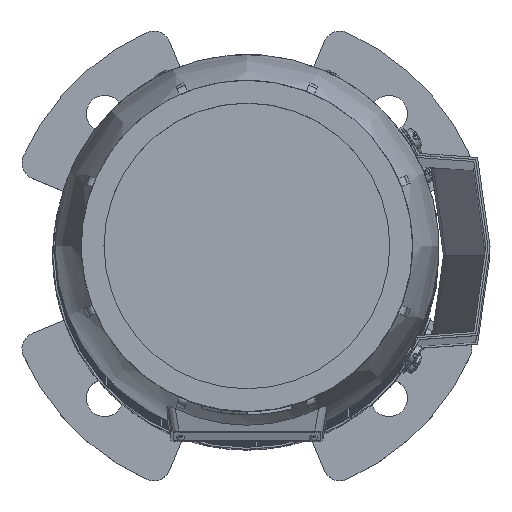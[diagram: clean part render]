
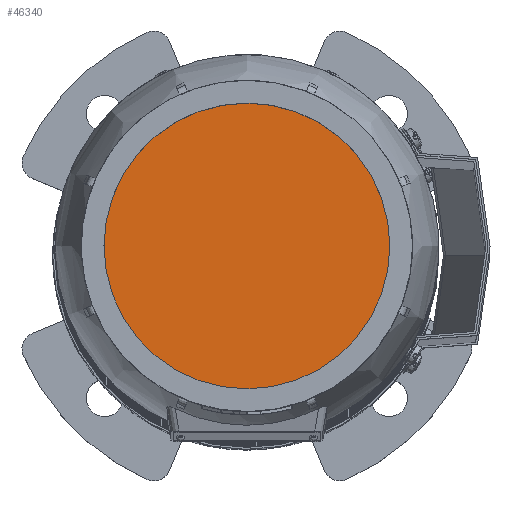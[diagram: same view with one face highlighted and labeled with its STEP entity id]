
A CAD part, top view. The second image highlights one B-rep face of the part: STEP entity #46340.
In plain terms, the highlighted planar face has unit normal (0, 0, 1) as drawn and (0, 1, 0) by its records, which use the part's own axes.
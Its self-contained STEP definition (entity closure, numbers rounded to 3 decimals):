
#9733=ORIENTED_EDGE('',*,*,#23679,.F.);
#23679=EDGE_CURVE('',#30652,#30652,#35359,.T.);
#30652=VERTEX_POINT('',#66974);
#35359=CIRCLE('',#48899,67.736);
#37481=EDGE_LOOP('',(#9733));
#40895=FACE_BOUND('',#37481,.T.);
#44327=PLANE('',#48898);
#46340=ADVANCED_FACE('',(#40895),#44327,.F.);
#48898=AXIS2_PLACEMENT_3D('',#66972,#53509,#53510);
#48899=AXIS2_PLACEMENT_3D('',#66973,#53511,#53512);
#53509=DIRECTION('',(0.,-1.,0.));
#53510=DIRECTION('',(0.,0.,-1.));
#53511=DIRECTION('',(0.,-1.,0.));
#53512=DIRECTION('',(0.,0.,-1.));
#66972=CARTESIAN_POINT('',(0.,154.,0.));
#66973=CARTESIAN_POINT('',(0.,154.,0.));
#66974=CARTESIAN_POINT('',(0.,154.,-67.736));
